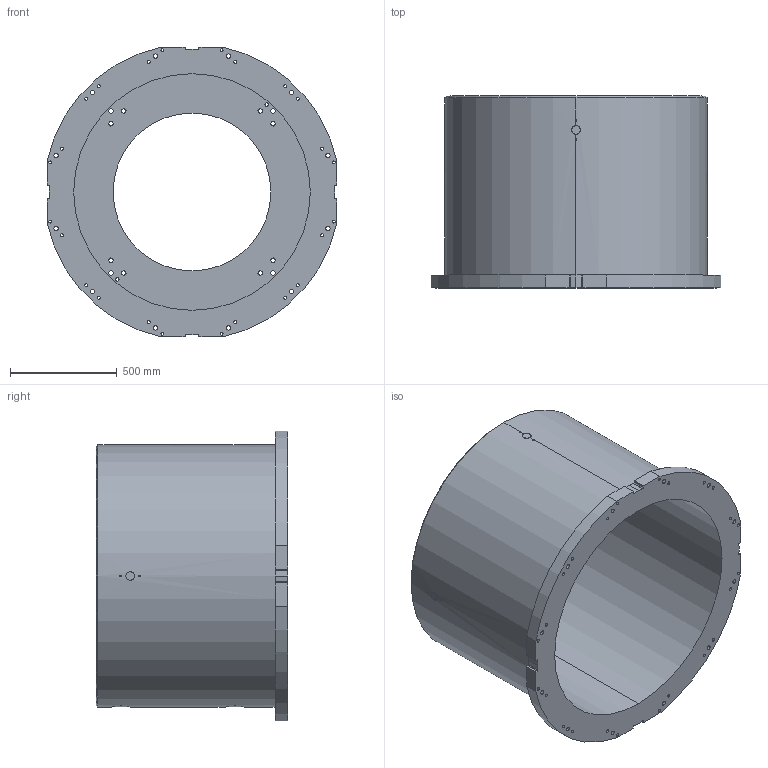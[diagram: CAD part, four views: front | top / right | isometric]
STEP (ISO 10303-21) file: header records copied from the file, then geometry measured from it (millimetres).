
FILE_DESCRIPTION (( 'STEP AP214' ), '1' );
FILE_NAME ('T-900.STEP', '2024-01-24T12:34:38', ( '' ), ( '' ), 'SwSTEP 2.0', 'SolidWorks 2022', '' );
FILE_SCHEMA (( 'AUTOMOTIVE_DESIGN' ));
Length unit declared in the file: millimetre
Products named in the file (1): T-900
Bounding box: 1360 x 900 x 1360 mm (x, y, z)
Volume: 246596812 mm3; surface area: 8849837.3 mm2
Topology: 1 solids, 1 shells, 235 faces, 641 edges, 420 vertices
Faces by surface type: cylinder 181, plane 28, bspline 24, cone 2
Entity records: 13455 total; most frequent: CARTESIAN_POINT 6244, ORIENTED_EDGE 1282, DIRECTION 1177, EDGE_CURVE 641, AXIS2_PLACEMENT_3D 466, VERTEX_POINT 420, EDGE_LOOP 349, CIRCLE 254
